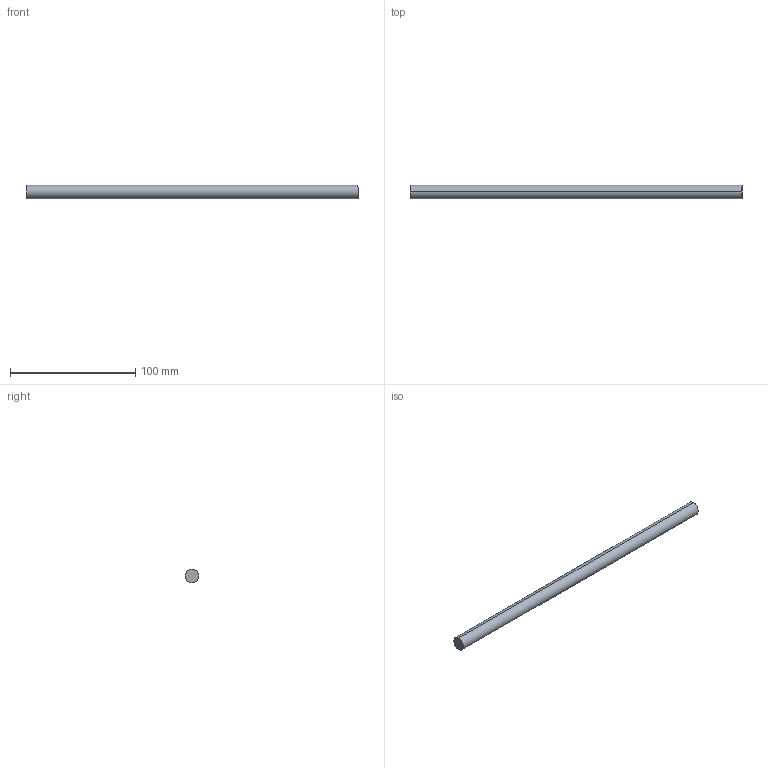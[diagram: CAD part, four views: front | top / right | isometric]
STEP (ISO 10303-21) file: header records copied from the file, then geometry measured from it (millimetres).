
FILE_DESCRIPTION (( 'STEP AP214' ), '1' );
FILE_NAME ('Querreling_Frontblende_Innenlade_KS-16_KAB-350.step', '2010-09-22T15:05:27', ( 'grass' ), ( '' ), 'SwSTEP 2.0', 'SolidWorks 2010', '' );
FILE_SCHEMA (( 'AUTOMOTIVE_DESIGN' ));
Length unit declared in the file: millimetre
Products named in the file (1): Querreling_Frontblende_Innenlade_KS-16_KAB-350
Bounding box: 265 x 11 x 11 mm (x, y, z)
Volume: 25183.8 mm3; surface area: 9347.8 mm2
Topology: 1 solids, 1 shells, 4 faces, 6 edges, 4 vertices
Faces by surface type: cylinder 2, plane 2
Entity records: 128 total; most frequent: DIRECTION 20, CARTESIAN_POINT 15, ORIENTED_EDGE 12, AXIS2_PLACEMENT_3D 9, EDGE_CURVE 6, CIRCLE 4, EDGE_LOOP 4, FACE_OUTER_BOUND 4
